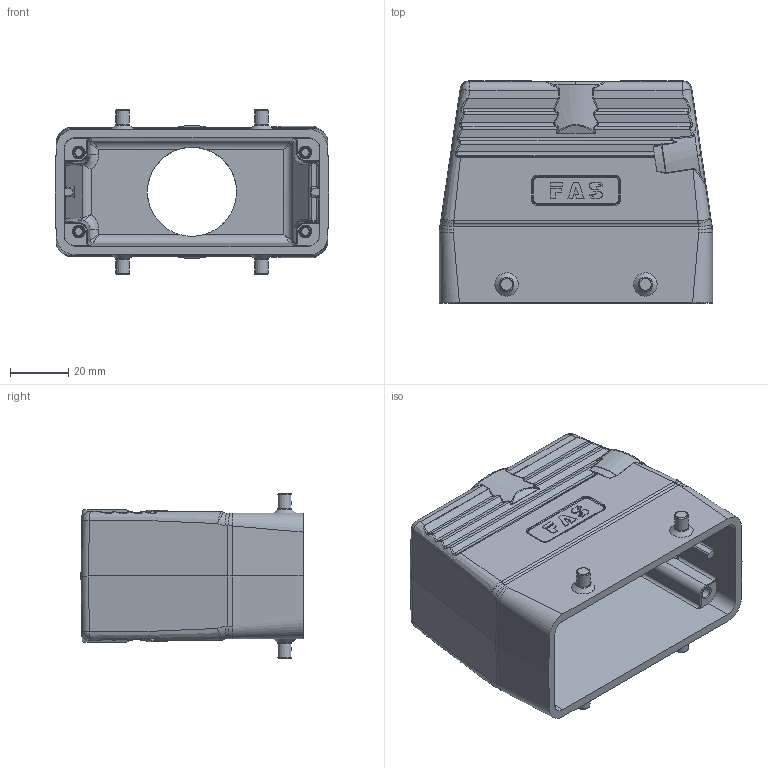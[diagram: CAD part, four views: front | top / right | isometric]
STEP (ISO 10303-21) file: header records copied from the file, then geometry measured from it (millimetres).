
FILE_DESCRIPTION (( 'STEP AP203' ), '1' );
FILE_NAME ('H16B-TGH-M32.STEP', '2023-06-07T09:02:05', ( '' ), ( '' ), 'SwSTEP 2.0', 'SolidWorks 2016', '' );
FILE_SCHEMA (( 'CONFIG_CONTROL_DESIGN' ));
Length unit declared in the file: millimetre
Products named in the file (1): H16B-TGH-M32
Bounding box: 93.5 x 76 x 56.4 mm (x, y, z)
Volume: 90135.2 mm3; surface area: 42032.3 mm2
Topology: 1 solids, 1 shells, 603 faces, 1545 edges, 970 vertices
Faces by surface type: bspline 198, plane 175, cylinder 161, cone 31, torus 26, sphere 12
Full cylindrical faces by diameter (mm): 30.5 x1
Entity records: 32370 total; most frequent: CARTESIAN_POINT 20587, ORIENTED_EDGE 2978, DIRECTION 1537, EDGE_CURVE 1489, VERTEX_POINT 948, B_SPLINE_CURVE_WITH_KNOTS 814, EDGE_LOOP 657, FACE_OUTER_BOUND 608
